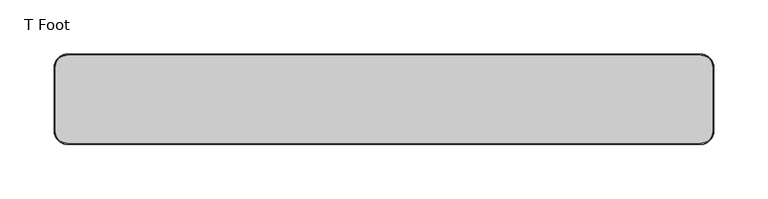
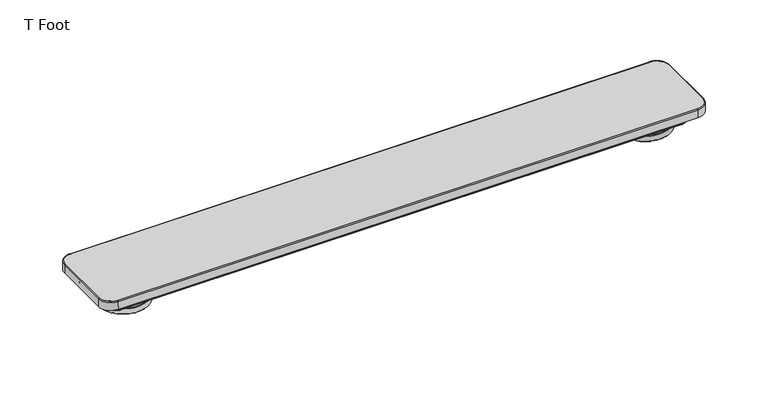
"""IFC4 building model written with IfcOpenShell, lengths in millimetres: furniture geometry, Geiger_GeigerOneCasegoods_LegSupport : T Foot."""

from ifc_helpers import new_model, si_unit, point, frame, origin, place, context, project, spatial, polyline, circle_curve, ellipse_curve, trimmed, source, transform, mapped, element, save
from ifc_brep_helpers import plane_surface, cylinder_surface, revolved_surface, advanced_brep


def t_foot_2f0a3af6(model_context):
    return source(origin(), model_context, "Body", "AdvancedBrep", [
        advanced_brep(
        [(292.3, -40.8746867, 32.4), (303.8746867, -29.3, 32.4), (303.8746867, 29.3020064, 32.4), (292.3, 40.8766932, 32.4), (-292.3, 40.8766932, 32.4), (-303.8746867, 29.3020064, 32.4), (-303.8746867, -29.3, 32.4), (-292.3, -40.8746867, 32.4), (305.0, -29.3, 23.4), (292.3, -42.0, 23.4), (-292.3, -42.0, 23.4), (-305.0, -29.3, 23.4), (-305.0, 29.3020064, 23.4), (-292.3, 42.0020064, 23.4), (292.3, 42.0020064, 23.4), (305.0, 29.3020064, 23.4), (304.8571584, -29.3, 31.4348393), (292.3, -41.8571584, 31.4348393), (304.8571584, 29.3020064, 31.4348393), (292.3, 41.8591649, 31.4348393), (-292.3, 41.8591649, 31.4348393), (-304.8571584, 29.3020064, 31.4348393), (-304.8571584, -29.3, 31.4348393), (-292.3, -41.8571584, 31.4348393)],
        [
            (0, 1, circle_curve(frame((292.3, -29.3, 32.4), z_axis=(0.0, 0.0, 1.0), x_axis=(0.0, -1.0, 0.0)), 11.5746867)),
            (1, 2),
            (2, 3, circle_curve(frame((292.3, 29.3020064, 32.4), z_axis=(0.0, 0.0, 1.0), x_axis=(1.0, 0.0, 0.0)), 11.5746867)),
            (3, 4),
            (4, 5, circle_curve(frame((-292.3, 29.3020064, 32.4), z_axis=(0.0, 0.0, 1.0), x_axis=(0.0, 1.0, 0.0)), 11.5746867)),
            (5, 6),
            (6, 7, circle_curve(frame((-292.3, -29.3, 32.4), z_axis=(0.0, 0.0, 1.0), x_axis=(-1.0, 0.0, 0.0)), 11.5746867)),
            (7, 0),
            (8, 9, circle_curve(frame((292.3, -29.3, 23.4), z_axis=(0.0, 0.0, -1.0), x_axis=(0.0, -1.0, 0.0)), 12.7)),
            (9, 10),
            (10, 11, circle_curve(frame((-292.3, -29.3, 23.4), z_axis=(0.0, 0.0, -1.0), x_axis=(-1.0, 0.0, 0.0)), 12.7)),
            (11, 12),
            (12, 13, circle_curve(frame((-292.3, 29.3020064, 23.4), z_axis=(0.0, 0.0, -1.0), x_axis=(0.0, 1.0, 0.0)), 12.7)),
            (13, 14),
            (14, 15, circle_curve(frame((292.3, 29.3020064, 23.4), z_axis=(0.0, 0.0, -1.0), x_axis=(1.0, 0.0, 0.0)), 12.7)),
            (15, 8),
            (16, 17, circle_curve(frame((292.3, -29.3, 31.4348393), z_axis=(0.0, 0.0, -1.0), x_axis=(0.0, -1.0, 0.0)), 12.5571584)),
            (17, 9),
            (8, 16),
            (16, 1, circle_curve(frame((303.8746867, -29.3, 31.4173731), z_axis=(0.0, -1.0, 0.0), x_axis=(1.0, 0.0, 0.0)), 0.9826269)),
            (0, 17, circle_curve(frame((292.3, -40.8746867, 31.4173731), z_axis=(1.0, 0.0, 0.0), x_axis=(0.0, -1.0, 0.0)), 0.9826269)),
            (15, 18),
            (18, 16),
            (18, 2, circle_curve(frame((303.8746867, 29.3020064, 31.4173731), z_axis=(0.0, -1.0, 0.0), x_axis=(1.0, 0.0, 0.0)), 0.9826269)),
            (14, 19),
            (19, 18, circle_curve(frame((292.3, 29.3020064, 31.4348393), z_axis=(0.0, 0.0, -1.0), x_axis=(1.0, 0.0, 0.0)), 12.5571584)),
            (19, 3, circle_curve(frame((292.3, 40.8766932, 31.4173731), z_axis=(1.0, 0.0, 0.0), x_axis=(0.0, 1.0, 0.0)), 0.9826269)),
            (13, 20),
            (20, 19),
            (20, 4, circle_curve(frame((-292.3, 40.8766932, 31.4173731), z_axis=(1.0, 0.0, 0.0), x_axis=(0.0, 1.0, 0.0)), 0.9826269)),
            (12, 21),
            (21, 20, circle_curve(frame((-292.3, 29.3020064, 31.4348393), z_axis=(0.0, 0.0, -1.0), x_axis=(0.0, 1.0, 0.0)), 12.5571584)),
            (21, 5, circle_curve(frame((-303.8746867, 29.3020064, 31.4173731), z_axis=(0.0, 1.0, 0.0), x_axis=(-1.0, 0.0, 0.0)), 0.9826269)),
            (11, 22),
            (22, 21),
            (22, 6, circle_curve(frame((-303.8746867, -29.3, 31.4173731), z_axis=(0.0, 1.0, 0.0), x_axis=(-1.0, 0.0, 0.0)), 0.9826269)),
            (10, 23),
            (23, 22, circle_curve(frame((-292.3, -29.3, 31.4348393), z_axis=(0.0, 0.0, -1.0), x_axis=(-1.0, 0.0, 0.0)), 12.5571584)),
            (23, 7, circle_curve(frame((-292.3, -40.8746867, 31.4173731), z_axis=(-1.0, 0.0, 0.0), x_axis=(0.0, -1.0, 0.0)), 0.9826269)),
            (17, 23),
        ],
        [
            plane_surface(frame((-292.3, 38.953249, 32.4), z_axis=(0.0, 0.0, 1.0), x_axis=(-1.0, 0.0, 0.0))),
            plane_surface(frame((-292.3, 38.953249, 23.4), z_axis=(0.0, 0.0, -1.0), x_axis=(1.0, 0.0, 0.0))),
            revolved_surface(polyline([(292.3, -42.0, 23.4), (292.3, -41.8571584, 31.4348393)]), (292.3, -29.3, 23.4), (0.0, 0.0, 1.0)),
            revolved_surface(trimmed(ellipse_curve(frame((292.3, -40.8746867, 31.4173731), z_axis=(-1.0, 0.0, 0.0), x_axis=(0.0, -1.0, 0.0)), 0.9826269, 0.9826269), [point((292.3, -41.8571584, 31.4348393))], [point((292.3, -40.8746867, 32.4))], True, "CARTESIAN"), (292.3, -29.3, 23.4), (0.0, 0.0, 1.0)),
            plane_surface(frame((305.0, -29.3, 23.4), z_axis=(0.9998420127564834, 0.0, 0.017774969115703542), x_axis=(0.0, 1.0, 0.0))),
            cylinder_surface(frame((303.8746867, -29.3, 31.4173731), z_axis=(0.0, -1.0, 0.0), x_axis=(1.0, 0.0, 0.0)), 0.9826269),
            revolved_surface(polyline([(305.0, 29.3020064, 23.4), (304.8571584, 29.3020064, 31.4348393)]), (292.3, 29.3020064, 23.4), (0.0, 0.0, 1.0)),
            revolved_surface(trimmed(ellipse_curve(frame((303.8746867, 29.3020064, 31.4173731), z_axis=(0.0, -1.0, 0.0), x_axis=(1.0, 0.0, 0.0)), 0.9826269, 0.9826269), [point((304.8571584, 29.3020064, 31.4348393))], [point((303.8746867, 29.3020064, 32.4))], True, "CARTESIAN"), (292.3, 29.3020064, 23.4), (0.0, 0.0, 1.0)),
            plane_surface(frame((292.3, 42.0020064, 23.4), z_axis=(0.0, 0.9998420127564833, 0.017774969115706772), x_axis=(-1.0, 0.0, 0.0))),
            cylinder_surface(frame((292.3, 40.8766932, 31.4173731), z_axis=(1.0, 0.0, 0.0), x_axis=(0.0, 1.0, 0.0)), 0.9826269),
            revolved_surface(polyline([(-292.3, 42.0020064, 23.4), (-292.3, 41.8591649, 31.4348393)]), (-292.3, 29.3020064, 23.4), (0.0, 0.0, 1.0)),
            revolved_surface(trimmed(ellipse_curve(frame((-292.3, 40.8766932, 31.4173731), z_axis=(1.0, 0.0, 0.0), x_axis=(0.0, 1.0, 0.0)), 0.9826269, 0.9826269), [point((-292.3, 41.8591649, 31.4348393))], [point((-292.3, 40.8766932, 32.4))], True, "CARTESIAN"), (-292.3, 29.3020064, 23.4), (0.0, 0.0, 1.0)),
            plane_surface(frame((-305.0, 29.3020064, 23.4), z_axis=(-0.9998420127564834, 0.0, 0.017774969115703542), x_axis=(0.0, -1.0, 0.0))),
            cylinder_surface(frame((-303.8746867, 29.3020064, 31.4173731), z_axis=(0.0, 1.0, 0.0), x_axis=(-1.0, 0.0, 0.0)), 0.9826269),
            revolved_surface(polyline([(-305.0, -29.3, 23.4), (-304.8571584, -29.3, 31.4348393)]), (-292.3, -29.3, 23.4), (0.0, 0.0, 1.0)),
            revolved_surface(trimmed(ellipse_curve(frame((-303.8746867, -29.3, 31.4173731), z_axis=(0.0, 1.0, 0.0), x_axis=(-1.0, 0.0, 0.0)), 0.9826269, 0.9826269), [point((-304.8571584, -29.3, 31.4348393))], [point((-303.8746867, -29.3, 32.4))], True, "CARTESIAN"), (-292.3, -29.3, 23.4), (0.0, 0.0, 1.0)),
            plane_surface(frame((-292.3, -42.0, 23.4), z_axis=(0.0, -0.9998420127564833, 0.017774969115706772), x_axis=(1.0, 0.0, 0.0))),
            cylinder_surface(frame((-292.3, -40.8746867, 31.4173731), z_axis=(-1.0, 0.0, 0.0), x_axis=(0.0, -1.0, 0.0)), 0.9826269),
        ],
        [
            (0, [[1, 2, 3, 4, 5, 6, 7, 8]]),
            (1, [[9, 10, 11, 12, 13, 14, 15, 16]]),
            (2, [[17, 18, -9, 19]]),
            (3, [[-17, 20, -1, 21]]),
            (4, [[-19, -16, 22, 23]]),
            (5, [[-20, -23, 24, -2]]),
            (6, [[-22, -15, 25, 26]]),
            (7, [[-24, -26, 27, -3]]),
            (8, [[-25, -14, 28, 29]]),
            (9, [[-27, -29, 30, -4]]),
            (10, [[-28, -13, 31, 32]]),
            (11, [[-30, -32, 33, -5]]),
            (12, [[-31, -12, 34, 35]]),
            (13, [[-33, -35, 36, -6]]),
            (14, [[-34, -11, 37, 38]]),
            (15, [[-36, -38, 39, -7]]),
            (16, [[-18, 40, -37, -10]]),
            (17, [[-21, -8, -39, -40]]),
        ],
    ),
        advanced_brep(
        [(-281.2997051, -31.0074193, 13.4), (-294.0074193, -18.2997051, 13.4), (-294.0074193, 18.2997051, 13.4), (-281.2997051, 31.0074193, 13.4), (281.2997051, 31.0074193, 13.4), (294.0074193, 18.2997051, 13.4), (294.0074193, -18.2997051, 13.4), (281.2997051, -31.0074193, 13.4), (-296.2038379, -18.2997051, 23.4), (-281.2997051, -33.2038379, 23.4), (281.2997051, -33.2038379, 23.4), (296.2038379, -18.2997051, 23.4), (296.2038379, 18.2997051, 23.4), (281.2997051, 33.2038379, 23.4), (-281.2997051, 33.2038379, 23.4), (-296.2038379, 18.2997051, 23.4), (-295.1361385, -18.2997051, 22.4169975), (-281.2997051, -32.1361385, 22.4169975), (-294.9994295, -18.2997051, 14.3752894), (-281.2997051, -31.9994295, 14.3752894), (-295.1361385, 18.2997051, 22.4169975), (-294.9994295, 18.2997051, 14.3752894), (-281.2997051, 32.1361385, 22.4169975), (-281.2997051, 31.9994295, 14.3752894), (281.2997051, 32.1361385, 22.4169975), (281.2997051, 31.9994295, 14.3752894), (295.1361385, 18.2997051, 22.4169975), (294.9994295, 18.2997051, 14.3752894), (295.1361385, -18.2997051, 22.4169975), (294.9994295, -18.2997051, 14.3752894), (281.2997051, -32.1361385, 22.4169975), (281.2997051, -31.9994295, 14.3752894)],
        [
            (0, 1, circle_curve(frame((-281.2997051, -18.2997051, 13.4), z_axis=(0.0, 0.0, -1.0), x_axis=(0.0, -1.0, 0.0)), 12.7077142)),
            (1, 2),
            (2, 3, circle_curve(frame((-281.2997051, 18.2997051, 13.4), z_axis=(0.0, 0.0, -1.0), x_axis=(-1.0, 0.0, 0.0)), 12.7077142)),
            (3, 4),
            (4, 5, circle_curve(frame((281.2997051, 18.2997051, 13.4), z_axis=(0.0, 0.0, -1.0), x_axis=(0.0, 1.0, 0.0)), 12.7077142)),
            (5, 6),
            (6, 7, circle_curve(frame((281.2997051, -18.2997051, 13.4), z_axis=(0.0, 0.0, -1.0), x_axis=(1.0, 0.0, 0.0)), 12.7077142)),
            (7, 0),
            (8, 9, circle_curve(frame((-281.2997051, -18.2997051, 23.4), z_axis=(0.0, 0.0, 1.0), x_axis=(0.0, -1.0, 0.0)), 14.9041329)),
            (9, 10),
            (10, 11, circle_curve(frame((281.2997051, -18.2997051, 23.4), z_axis=(0.0, 0.0, 1.0), x_axis=(1.0, 0.0, 0.0)), 14.9041329)),
            (11, 12),
            (12, 13, circle_curve(frame((281.2997051, 18.2997051, 23.4), z_axis=(0.0, 0.0, 1.0), x_axis=(0.0, 1.0, 0.0)), 14.9041329)),
            (13, 14),
            (14, 15, circle_curve(frame((-281.2997051, 18.2997051, 23.4), z_axis=(0.0, 0.0, 1.0), x_axis=(-1.0, 0.0, 0.0)), 14.9041329)),
            (15, 8),
            (16, 17, circle_curve(frame((-281.2997051, -18.2997051, 22.4169975), z_axis=(0.0, 0.0, 1.0), x_axis=(0.0, -1.0, 0.0)), 13.8364334)),
            (17, 9, circle_curve(frame((-281.2997051, -33.1381838, 22.3999628), z_axis=(1.0, 0.0, 0.0), x_axis=(0.0, -1.0, 0.0)), 1.0021901)),
            (8, 16, circle_curve(frame((-296.1381838, -18.2997051, 22.3999628), z_axis=(0.0, 1.0, 0.0), x_axis=(-1.0, 0.0, 0.0)), 1.0021901)),
            (16, 18),
            (18, 19, circle_curve(frame((-281.2997051, -18.2997051, 14.3752894), z_axis=(0.0, 0.0, 1.0), x_axis=(0.0, -1.0, 0.0)), 13.6997244)),
            (19, 17),
            (18, 1, circle_curve(frame((-294.0074193, -18.2997051, 14.3921535), z_axis=(0.0, -1.0, 0.0), x_axis=(-1.0, 0.0, 0.0)), 0.9921535)),
            (0, 19, circle_curve(frame((-281.2997051, -31.0074193, 14.3921535), z_axis=(-1.0, 0.0, 0.0), x_axis=(0.0, -1.0, 0.0)), 0.9921535)),
            (15, 20, circle_curve(frame((-296.1381838, 18.2997051, 22.3999628), z_axis=(0.0, 1.0, 0.0), x_axis=(-1.0, 0.0, 0.0)), 1.0021901)),
            (20, 16),
            (20, 21),
            (21, 18),
            (21, 2, circle_curve(frame((-294.0074193, 18.2997051, 14.3921535), z_axis=(0.0, -1.0, 0.0), x_axis=(-1.0, 0.0, 0.0)), 0.9921535)),
            (14, 22, circle_curve(frame((-281.2997051, 33.1381838, 22.3999628), z_axis=(1.0, 0.0, 0.0), x_axis=(0.0, 1.0, 0.0)), 1.0021901)),
            (22, 20, circle_curve(frame((-281.2997051, 18.2997051, 22.4169975), z_axis=(0.0, 0.0, 1.0), x_axis=(-1.0, 0.0, 0.0)), 13.8364334)),
            (22, 23),
            (23, 21, circle_curve(frame((-281.2997051, 18.2997051, 14.3752894), z_axis=(0.0, 0.0, 1.0), x_axis=(-1.0, 0.0, 0.0)), 13.6997244)),
            (23, 3, circle_curve(frame((-281.2997051, 31.0074193, 14.3921535), z_axis=(-1.0, 0.0, 0.0), x_axis=(0.0, 1.0, 0.0)), 0.9921535)),
            (13, 24, circle_curve(frame((281.2997051, 33.1381838, 22.3999628), z_axis=(1.0, 0.0, 0.0), x_axis=(0.0, 1.0, 0.0)), 1.0021901)),
            (24, 22),
            (24, 25),
            (25, 23),
            (25, 4, circle_curve(frame((281.2997051, 31.0074193, 14.3921535), z_axis=(-1.0, 0.0, 0.0), x_axis=(0.0, 1.0, 0.0)), 0.9921535)),
            (12, 26, circle_curve(frame((296.1381838, 18.2997051, 22.3999628), z_axis=(0.0, -1.0, 0.0), x_axis=(1.0, 0.0, 0.0)), 1.0021901)),
            (26, 24, circle_curve(frame((281.2997051, 18.2997051, 22.4169975), z_axis=(0.0, 0.0, 1.0), x_axis=(0.0, 1.0, 0.0)), 13.8364334)),
            (26, 27),
            (27, 25, circle_curve(frame((281.2997051, 18.2997051, 14.3752894), z_axis=(0.0, 0.0, 1.0), x_axis=(0.0, 1.0, 0.0)), 13.6997244)),
            (27, 5, circle_curve(frame((294.0074193, 18.2997051, 14.3921535), z_axis=(0.0, 1.0, 0.0), x_axis=(1.0, 0.0, 0.0)), 0.9921535)),
            (11, 28, circle_curve(frame((296.1381838, -18.2997051, 22.3999628), z_axis=(0.0, -1.0, 0.0), x_axis=(1.0, 0.0, 0.0)), 1.0021901)),
            (28, 26),
            (28, 29),
            (29, 27),
            (29, 6, circle_curve(frame((294.0074193, -18.2997051, 14.3921535), z_axis=(0.0, 1.0, 0.0), x_axis=(1.0, 0.0, 0.0)), 0.9921535)),
            (10, 30, circle_curve(frame((281.2997051, -33.1381838, 22.3999628), z_axis=(-1.0, 0.0, 0.0), x_axis=(0.0, -1.0, 0.0)), 1.0021901)),
            (30, 28, circle_curve(frame((281.2997051, -18.2997051, 22.4169975), z_axis=(0.0, 0.0, 1.0), x_axis=(1.0, 0.0, 0.0)), 13.8364334)),
            (30, 31),
            (31, 29, circle_curve(frame((281.2997051, -18.2997051, 14.3752894), z_axis=(0.0, 0.0, 1.0), x_axis=(1.0, 0.0, 0.0)), 13.6997244)),
            (31, 7, circle_curve(frame((281.2997051, -31.0074193, 14.3921535), z_axis=(1.0, 0.0, 0.0), x_axis=(0.0, -1.0, 0.0)), 0.9921535)),
            (17, 30),
            (19, 31),
        ],
        [
            plane_surface(frame((281.2997051, 29.7287904, 13.4), z_axis=(0.0, 0.0, -1.0), x_axis=(1.0, 0.0, 0.0))),
            plane_surface(frame((281.2997051, 29.7287904, 23.4), z_axis=(0.0, 0.0, 1.0), x_axis=(-1.0, 0.0, 0.0))),
            revolved_surface(trimmed(ellipse_curve(frame((-281.2997051, -33.1381838, 22.3999628), z_axis=(-1.0, 0.0, 0.0), x_axis=(0.0, -1.0, 0.0)), 1.0021901, 1.0021901), [point((-281.2997051, -33.2038379, 23.4))], [point((-281.2997051, -32.1361385, 22.4169975))], True, "CARTESIAN"), (-281.2997051, -18.2997051, 23.4), (0.0, 0.0, -1.0)),
            revolved_surface(polyline([(-281.2997051, -32.1361385, 22.4169975), (-281.2997051, -31.9994295, 14.3752894)]), (-281.2997051, -18.2997051, 23.4), (0.0, 0.0, -1.0)),
            revolved_surface(trimmed(ellipse_curve(frame((-281.2997051, -31.0074193, 14.3921535), z_axis=(1.0, 0.0, 0.0), x_axis=(0.0, -1.0, 0.0)), 0.9921535, 0.9921535), [point((-281.2997051, -31.9994295, 14.3752894))], [point((-281.2997051, -31.0074193, 13.4))], True, "CARTESIAN"), (-281.2997051, -18.2997051, 23.4), (0.0, 0.0, -1.0)),
            revolved_surface(polyline([(-297.1403739, 18.2997051, 22.3999628), (-297.1403739, -18.2997051, 22.3999628)]), (-296.1381838, -18.2997051, 22.3999628), (0.0, 1.0, 0.0)),
            plane_surface(frame((-295.1361385, -18.2997051, 22.4169975), z_axis=(-0.9998555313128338, 0.0, -0.016997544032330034), x_axis=(0.0, 1.0, 0.0))),
            cylinder_surface(frame((-294.0074193, -18.2997051, 14.3921535), z_axis=(0.0, -1.0, 0.0), x_axis=(-1.0, 0.0, 0.0)), 0.9921535),
            revolved_surface(trimmed(ellipse_curve(frame((-296.1381838, 18.2997051, 22.3999628), z_axis=(0.0, 1.0, 0.0), x_axis=(-1.0, 0.0, 0.0)), 1.0021901, 1.0021901), [point((-296.2038379, 18.2997051, 23.4))], [point((-295.1361385, 18.2997051, 22.4169975))], True, "CARTESIAN"), (-281.2997051, 18.2997051, 23.4), (0.0, 0.0, -1.0)),
            revolved_surface(polyline([(-295.1361385, 18.2997051, 22.4169975), (-294.9994295, 18.2997051, 14.3752894)]), (-281.2997051, 18.2997051, 23.4), (0.0, 0.0, -1.0)),
            revolved_surface(trimmed(ellipse_curve(frame((-294.0074193, 18.2997051, 14.3921535), z_axis=(0.0, -1.0, 0.0), x_axis=(-1.0, 0.0, 0.0)), 0.9921535, 0.9921535), [point((-294.9994295, 18.2997051, 14.3752894))], [point((-294.0074193, 18.2997051, 13.4))], True, "CARTESIAN"), (-281.2997051, 18.2997051, 23.4), (0.0, 0.0, -1.0)),
            revolved_surface(polyline([(281.2997051, 34.1403739, 22.3999628), (-281.2997051, 34.1403739, 22.3999628)]), (-281.2997051, 33.1381838, 22.3999628), (1.0, 0.0, 0.0)),
            plane_surface(frame((-281.2997051, 32.1361385, 22.4169975), z_axis=(0.0, 0.9998555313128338, -0.016997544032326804), x_axis=(1.0, 0.0, 0.0))),
            cylinder_surface(frame((-281.2997051, 31.0074193, 14.3921535), z_axis=(-1.0, 0.0, 0.0), x_axis=(0.0, 1.0, 0.0)), 0.9921535),
            revolved_surface(trimmed(ellipse_curve(frame((281.2997051, 33.1381838, 22.3999628), z_axis=(1.0, 0.0, 0.0), x_axis=(0.0, 1.0, 0.0)), 1.0021901, 1.0021901), [point((281.2997051, 33.2038379, 23.4))], [point((281.2997051, 32.1361385, 22.4169975))], True, "CARTESIAN"), (281.2997051, 18.2997051, 23.4), (0.0, 0.0, -1.0)),
            revolved_surface(polyline([(281.2997051, 32.1361385, 22.4169975), (281.2997051, 31.9994295, 14.3752894)]), (281.2997051, 18.2997051, 23.4), (0.0, 0.0, -1.0)),
            revolved_surface(trimmed(ellipse_curve(frame((281.2997051, 31.0074193, 14.3921535), z_axis=(-1.0, 0.0, 0.0), x_axis=(0.0, 1.0, 0.0)), 0.9921535, 0.9921535), [point((281.2997051, 31.9994295, 14.3752894))], [point((281.2997051, 31.0074193, 13.4))], True, "CARTESIAN"), (281.2997051, 18.2997051, 23.4), (0.0, 0.0, -1.0)),
            revolved_surface(polyline([(297.1403739, -18.2997051, 22.3999628), (297.1403739, 18.2997051, 22.3999628)]), (296.1381838, 18.2997051, 22.3999628), (0.0, -1.0, 0.0)),
            plane_surface(frame((295.1361385, 18.2997051, 22.4169975), z_axis=(0.9998555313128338, 0.0, -0.016997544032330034), x_axis=(0.0, -1.0, 0.0))),
            cylinder_surface(frame((294.0074193, 18.2997051, 14.3921535), z_axis=(0.0, 1.0, 0.0), x_axis=(1.0, 0.0, 0.0)), 0.9921535),
            revolved_surface(trimmed(ellipse_curve(frame((296.1381838, -18.2997051, 22.3999628), z_axis=(0.0, -1.0, 0.0), x_axis=(1.0, 0.0, 0.0)), 1.0021901, 1.0021901), [point((296.2038379, -18.2997051, 23.4))], [point((295.1361385, -18.2997051, 22.4169975))], True, "CARTESIAN"), (281.2997051, -18.2997051, 23.4), (0.0, 0.0, -1.0)),
            revolved_surface(polyline([(295.1361385, -18.2997051, 22.4169975), (294.9994295, -18.2997051, 14.3752894)]), (281.2997051, -18.2997051, 23.4), (0.0, 0.0, -1.0)),
            revolved_surface(trimmed(ellipse_curve(frame((294.0074193, -18.2997051, 14.3921535), z_axis=(0.0, 1.0, 0.0), x_axis=(1.0, 0.0, 0.0)), 0.9921535, 0.9921535), [point((294.9994295, -18.2997051, 14.3752894))], [point((294.0074193, -18.2997051, 13.4))], True, "CARTESIAN"), (281.2997051, -18.2997051, 23.4), (0.0, 0.0, -1.0)),
            revolved_surface(polyline([(-281.2997051, -34.1403739, 22.3999628), (281.2997051, -34.1403739, 22.3999628)]), (281.2997051, -33.1381838, 22.3999628), (-1.0, 0.0, 0.0)),
            plane_surface(frame((281.2997051, -32.1361385, 22.4169975), z_axis=(0.0, -0.9998555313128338, -0.016997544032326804), x_axis=(-1.0, 0.0, 0.0))),
            cylinder_surface(frame((281.2997051, -31.0074193, 14.3921535), z_axis=(1.0, 0.0, 0.0), x_axis=(0.0, -1.0, 0.0)), 0.9921535),
        ],
        [
            (0, [[1, 2, 3, 4, 5, 6, 7, 8]]),
            (1, [[9, 10, 11, 12, 13, 14, 15, 16]]),
            (2, [[17, 18, -9, 19]]),
            (3, [[-17, 20, 21, 22]]),
            (4, [[-21, 23, -1, 24]]),
            (5, [[-19, -16, 25, 26]]),
            (6, [[-20, -26, 27, 28]]),
            (7, [[-23, -28, 29, -2]]),
            (8, [[-25, -15, 30, 31]]),
            (9, [[-27, -31, 32, 33]]),
            (10, [[-29, -33, 34, -3]]),
            (11, [[-30, -14, 35, 36]]),
            (12, [[-32, -36, 37, 38]]),
            (13, [[-34, -38, 39, -4]]),
            (14, [[-35, -13, 40, 41]]),
            (15, [[-37, -41, 42, 43]]),
            (16, [[-39, -43, 44, -5]]),
            (17, [[-40, -12, 45, 46]]),
            (18, [[-42, -46, 47, 48]]),
            (19, [[-44, -48, 49, -6]]),
            (20, [[-45, -11, 50, 51]]),
            (21, [[-47, -51, 52, 53]]),
            (22, [[-49, -53, 54, -7]]),
            (23, [[-18, 55, -50, -10]]),
            (24, [[-22, 56, -52, -55]]),
            (25, [[-24, -8, -54, -56]]),
        ],
    ),
        advanced_brep(
        [(-263.0, 0.0, 0.0), (-287.9, 0.0, 0.0), (-238.1, 0.0, 0.0), (-288.4553523, 0.0, 0.5553523), (-237.5446477, 0.0, 0.5553523), (-288.4553523, 0.0, 5.8446477), (-237.5446477, 0.0, 5.8446477), (-287.9, 0.0, 6.4), (-238.1, 0.0, 6.4), (-266.9077051, 0.0, 6.4), (-259.0922949, 0.0, 6.4), (-266.9077051, 0.0, 13.4), (-259.0922949, 0.0, 13.4), (-263.0, 0.0, 13.4)],
        [
            (0, 1),
            (1, 2, circle_curve(frame((-263.0, 0.0, 0.0), z_axis=(0.0, 0.0, -1.0), x_axis=(-1.0, 0.0, 0.0)), 24.9)),
            (2, 0),
            (2, 1, circle_curve(frame((-263.0, 0.0, 0.0), z_axis=(0.0, 0.0, -1.0), x_axis=(-1.0, 0.0, 0.0)), 24.9)),
            (1, 3),
            (3, 4, circle_curve(frame((-263.0, 0.0, 0.5553523), z_axis=(0.0, 0.0, -1.0), x_axis=(-1.0, 0.0, 0.0)), 25.4553523)),
            (4, 2),
            (4, 3, circle_curve(frame((-263.0, 0.0, 0.5553523), z_axis=(0.0, 0.0, -1.0), x_axis=(-1.0, 0.0, 0.0)), 25.4553523)),
            (3, 5),
            (5, 6, circle_curve(frame((-263.0, 0.0, 5.8446477), z_axis=(0.0, 0.0, -1.0), x_axis=(-1.0, 0.0, 0.0)), 25.4553523)),
            (6, 4),
            (6, 5, circle_curve(frame((-263.0, 0.0, 5.8446477), z_axis=(0.0, 0.0, -1.0), x_axis=(-1.0, 0.0, 0.0)), 25.4553523)),
            (5, 7),
            (7, 8, circle_curve(frame((-263.0, 0.0, 6.4), z_axis=(0.0, 0.0, -1.0), x_axis=(-1.0, 0.0, 0.0)), 24.9)),
            (8, 6),
            (8, 7, circle_curve(frame((-263.0, 0.0, 6.4), z_axis=(0.0, 0.0, -1.0), x_axis=(-1.0, 0.0, 0.0)), 24.9)),
            (7, 9),
            (9, 10, circle_curve(frame((-263.0, 0.0, 6.4), z_axis=(0.0, 0.0, -1.0), x_axis=(-1.0, 0.0, 0.0)), 3.9077051)),
            (10, 8),
            (10, 9, circle_curve(frame((-263.0, 0.0, 6.4), z_axis=(0.0, 0.0, -1.0), x_axis=(-1.0, 0.0, 0.0)), 3.9077051)),
            (9, 11),
            (11, 12, circle_curve(frame((-263.0, 0.0, 13.4), z_axis=(0.0, 0.0, -1.0), x_axis=(-1.0, 0.0, 0.0)), 3.9077051)),
            (12, 10),
            (12, 11, circle_curve(frame((-263.0, 0.0, 13.4), z_axis=(0.0, 0.0, -1.0), x_axis=(-1.0, 0.0, 0.0)), 3.9077051)),
            (11, 13),
            (13, 12),
        ],
        [
            plane_surface(frame((-263.0, 0.0, 0.0), z_axis=(0.0, 0.0, -1.0), x_axis=(-1.0, 0.0, 0.0))),
            revolved_surface(polyline([(-288.4553523, 0.0, 0.5553523), (-287.9, 0.0, 0.0)]), (-263.0, 0.0, 13.4), (0.0, 0.0, -1.0)),
            cylinder_surface(frame((-263.0, 0.0, 13.4), z_axis=(0.0, 0.0, -1.0), x_axis=(-1.0, 0.0, 0.0)), 25.4553523),
            revolved_surface(polyline([(-287.9, 0.0, 6.4), (-288.4553523, 0.0, 5.8446477)]), (-263.0, 0.0, 13.4), (0.0, 0.0, -1.0)),
            plane_surface(frame((-263.0, 0.0, 6.4), z_axis=(0.0, 0.0, 1.0), x_axis=(-1.0, 0.0, 0.0))),
            cylinder_surface(frame((-263.0, 0.0, 13.4), z_axis=(0.0, 0.0, -1.0), x_axis=(-1.0, 0.0, 0.0)), 3.9077051),
            plane_surface(frame((-263.0, 0.0, 13.4), z_axis=(0.0, 0.0, 1.0), x_axis=(-1.0, 0.0, 0.0))),
        ],
        [
            (0, [[1, 2, 3]]),
            (0, [[-3, 4, -1]]),
            (1, [[-2, 5, 6, 7]]),
            (1, [[-4, -7, 8, -5]]),
            (2, [[-6, 9, 10, 11]]),
            (2, [[-8, -11, 12, -9]]),
            (3, [[-10, 13, 14, 15]]),
            (3, [[-12, -15, 16, -13]]),
            (4, [[-14, 17, 18, 19]]),
            (4, [[-16, -19, 20, -17]]),
            (5, [[-18, 21, 22, 23]]),
            (5, [[-20, -23, 24, -21]]),
            (6, [[-22, 25, 26]]),
            (6, [[-24, -26, -25]]),
        ],
    ),
        advanced_brep(
        [(238.1, 0.0, 0.0), (287.9, 0.0, 0.0), (263.0, 0.0, 0.0), (237.5446477, 0.0, 0.5553523), (288.4553523, 0.0, 0.5553523), (237.5446477, 0.0, 5.8446477), (288.4553523, 0.0, 5.8446477), (238.1, 0.0, 6.4), (287.9, 0.0, 6.4), (259.0922949, 0.0, 6.4), (266.9077051, 0.0, 6.4), (259.0922949, 0.0, 13.4), (266.9077051, 0.0, 13.4), (263.0, 0.0, 13.4)],
        [
            (0, 1, circle_curve(frame((263.0, 0.0, 0.0), z_axis=(0.0, 0.0, -1.0), x_axis=(1.0, 0.0, 0.0)), 24.9)),
            (1, 2),
            (2, 0),
            (1, 0, circle_curve(frame((263.0, 0.0, 0.0), z_axis=(0.0, 0.0, -1.0), x_axis=(1.0, 0.0, 0.0)), 24.9)),
            (3, 4, circle_curve(frame((263.0, 0.0, 0.5553523), z_axis=(0.0, 0.0, -1.0), x_axis=(1.0, 0.0, 0.0)), 25.4553523)),
            (4, 1),
            (0, 3),
            (4, 3, circle_curve(frame((263.0, 0.0, 0.5553523), z_axis=(0.0, 0.0, -1.0), x_axis=(1.0, 0.0, 0.0)), 25.4553523)),
            (5, 6, circle_curve(frame((263.0, 0.0, 5.8446477), z_axis=(0.0, 0.0, -1.0), x_axis=(1.0, 0.0, 0.0)), 25.4553523)),
            (6, 4),
            (3, 5),
            (6, 5, circle_curve(frame((263.0, 0.0, 5.8446477), z_axis=(0.0, 0.0, -1.0), x_axis=(1.0, 0.0, 0.0)), 25.4553523)),
            (7, 8, circle_curve(frame((263.0, 0.0, 6.4), z_axis=(0.0, 0.0, -1.0), x_axis=(1.0, 0.0, 0.0)), 24.9)),
            (8, 6),
            (5, 7),
            (8, 7, circle_curve(frame((263.0, 0.0, 6.4), z_axis=(0.0, 0.0, -1.0), x_axis=(1.0, 0.0, 0.0)), 24.9)),
            (9, 10, circle_curve(frame((263.0, 0.0, 6.4), z_axis=(0.0, 0.0, -1.0), x_axis=(1.0, 0.0, 0.0)), 3.9077051)),
            (10, 8),
            (7, 9),
            (10, 9, circle_curve(frame((263.0, 0.0, 6.4), z_axis=(0.0, 0.0, -1.0), x_axis=(1.0, 0.0, 0.0)), 3.9077051)),
            (11, 12, circle_curve(frame((263.0, 0.0, 13.4), z_axis=(0.0, 0.0, -1.0), x_axis=(1.0, 0.0, 0.0)), 3.9077051)),
            (12, 10),
            (9, 11),
            (12, 11, circle_curve(frame((263.0, 0.0, 13.4), z_axis=(0.0, 0.0, -1.0), x_axis=(1.0, 0.0, 0.0)), 3.9077051)),
            (13, 12),
            (11, 13),
        ],
        [
            plane_surface(frame((263.0, 0.0, 0.0), z_axis=(0.0, 0.0, -1.0), x_axis=(1.0, 0.0, 0.0))),
            revolved_surface(polyline([(287.9, 0.0, 0.0), (288.4553523, 0.0, 0.5553523)]), (263.0, 0.0, 13.4), (0.0, 0.0, 1.0)),
            cylinder_surface(frame((263.0, 0.0, 13.4), z_axis=(0.0, 0.0, 1.0), x_axis=(1.0, 0.0, 0.0)), 25.4553523),
            revolved_surface(polyline([(288.4553523, 0.0, 5.8446477), (287.9, 0.0, 6.4)]), (263.0, 0.0, 13.4), (0.0, 0.0, 1.0)),
            plane_surface(frame((263.0, 0.0, 6.4), z_axis=(0.0, 0.0, 1.0), x_axis=(1.0, 0.0, 0.0))),
            cylinder_surface(frame((263.0, 0.0, 13.4), z_axis=(0.0, 0.0, 1.0), x_axis=(1.0, 0.0, 0.0)), 3.9077051),
            plane_surface(frame((263.0, 0.0, 13.4), z_axis=(0.0, 0.0, 1.0), x_axis=(1.0, 0.0, 0.0))),
        ],
        [
            (0, [[1, 2, 3]]),
            (0, [[4, -3, -2]]),
            (1, [[5, 6, -1, 7]]),
            (1, [[8, -7, -4, -6]]),
            (2, [[9, 10, -5, 11]]),
            (2, [[12, -11, -8, -10]]),
            (3, [[13, 14, -9, 15]]),
            (3, [[16, -15, -12, -14]]),
            (4, [[17, 18, -13, 19]]),
            (4, [[20, -19, -16, -18]]),
            (5, [[21, 22, -17, 23]]),
            (5, [[24, -23, -20, -22]]),
            (6, [[25, -21, 26]]),
            (6, [[-26, -24, -25]]),
        ],
    ),
    ])


if __name__ == "__main__":
    model = new_model("IFC4")
    model_context = context("Model", 3, world=origin())
    ifc_project = project(units=[si_unit("LENGTHUNIT", "METRE", prefix="MILLI")], contexts=[model_context])
    site = spatial("IfcSite", under=ifc_project)
    building = spatial("IfcBuilding", under=site)
    placement = place(None, origin())
    t_foot_shape = t_foot_2f0a3af6(model_context)
    element("IfcFurniture", 1, ObjectType="Geiger_GeigerOneCasegoods_LegSupport : T Foot", at=placement, inside=building, context=model_context, shape_type="MappedRepresentation", body=[
        mapped(t_foot_shape, transform((0.0, 0.0, 0.0), x_axis=(1.0, 0.0, 0.0), y_axis=(0.0, 1.0, 0.0), z_axis=(0.0, 0.0, 1.0))),
    ])
    save(model, "model.ifc")
